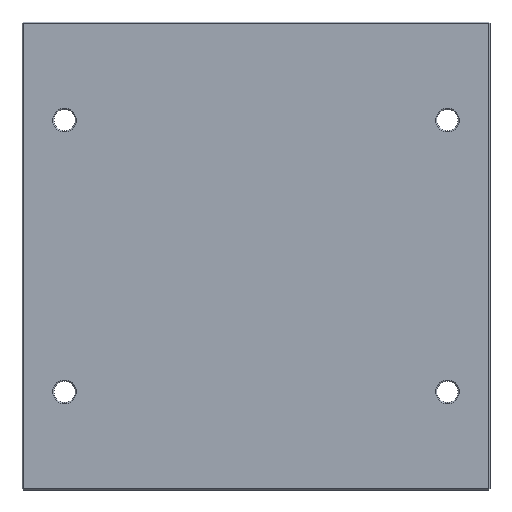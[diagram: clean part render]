
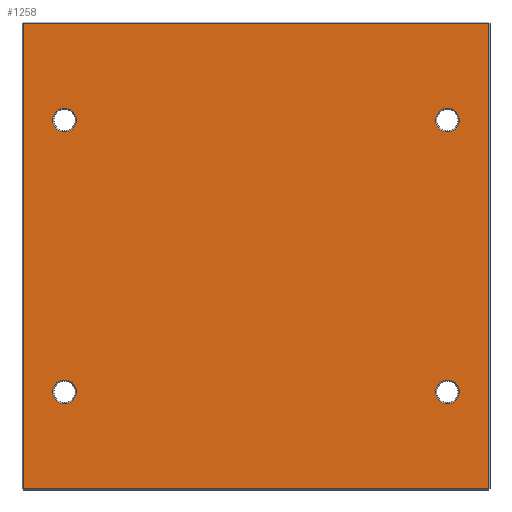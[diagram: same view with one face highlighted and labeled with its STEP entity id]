
A CAD part, front view. The second image highlights one B-rep face of the part: STEP entity #1258.
In plain terms, the highlighted planar face has unit normal (0, -1, 0).
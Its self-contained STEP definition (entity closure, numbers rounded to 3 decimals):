
#7 = EDGE_CURVE ( 'NONE', #974, #1653, #1294, .T. ) ;
#16 = CIRCLE ( 'NONE', #1277, 10. ) ;
#21 = DIRECTION ( 'NONE',  ( 0., 0., 1. ) ) ;
#23 = CARTESIAN_POINT ( 'NONE',  ( 197., 0., 0. ) ) ;
#34 = FACE_BOUND ( 'NONE', #959, .T. ) ;
#89 = VERTEX_POINT ( 'NONE', #746 ) ;
#120 = CARTESIAN_POINT ( 'NONE',  ( -197., 0., -197. ) ) ;
#159 = CIRCLE ( 'NONE', #545, 10. ) ;
#214 = FACE_BOUND ( 'NONE', #855, .T. ) ;
#222 = AXIS2_PLACEMENT_3D ( 'NONE', #1064, #1046, #1035 ) ;
#231 = DIRECTION ( 'NONE',  ( 0., 0., 1. ) ) ;
#238 = DIRECTION ( 'NONE',  ( 0., 1., 0. ) ) ;
#240 = CARTESIAN_POINT ( 'NONE',  ( -162., 0., 105. ) ) ;
#252 = LINE ( 'NONE', #1088, #1494 ) ;
#259 = AXIS2_PLACEMENT_3D ( 'NONE', #1219, #1214, #1208 ) ;
#278 = CARTESIAN_POINT ( 'NONE',  ( 0., 0., 0. ) ) ;
#305 = CIRCLE ( 'NONE', #838, 10. ) ;
#307 = ORIENTED_EDGE ( 'NONE', *, *, #1137, .T. ) ;
#325 = PLANE ( 'NONE',  #1118 ) ;
#328 = DIRECTION ( 'NONE',  ( 0., 0., 1. ) ) ;
#334 = DIRECTION ( 'NONE',  ( 0., 1., 0. ) ) ;
#340 = CARTESIAN_POINT ( 'NONE',  ( 162., 0., -115. ) ) ;
#351 = ORIENTED_EDGE ( 'NONE', *, *, #1306, .T. ) ;
#364 = FACE_BOUND ( 'NONE', #699, .T. ) ;
#396 = DIRECTION ( 'NONE',  ( 0., 0., 1. ) ) ;
#397 = AXIS2_PLACEMENT_3D ( 'NONE', #1586, #1405, #1375 ) ;
#420 = DIRECTION ( 'NONE',  ( 0., 1., 0. ) ) ;
#423 = CARTESIAN_POINT ( 'NONE',  ( -162., 0., -115. ) ) ;
#447 = CARTESIAN_POINT ( 'NONE',  ( 197., 0., 197. ) ) ;
#451 = VERTEX_POINT ( 'NONE', #737 ) ;
#502 = CARTESIAN_POINT ( 'NONE',  ( 162., 0., -125. ) ) ;
#545 = AXIS2_PLACEMENT_3D ( 'NONE', #1419, #1317, #1338 ) ;
#578 = AXIS2_PLACEMENT_3D ( 'NONE', #1268, #1261, #1255 ) ;
#609 = DIRECTION ( 'NONE',  ( 1., 0., 0. ) ) ;
#611 = VERTEX_POINT ( 'NONE', #1211 ) ;
#616 = CARTESIAN_POINT ( 'NONE',  ( 0., 0., -197. ) ) ;
#620 = DIRECTION ( 'NONE',  ( 0., 0., 1. ) ) ;
#637 = CARTESIAN_POINT ( 'NONE',  ( -162., 0., -105. ) ) ;
#652 = CARTESIAN_POINT ( 'NONE',  ( 162., 0., 115. ) ) ;
#667 = ORIENTED_EDGE ( 'NONE', *, *, #1498, .T. ) ;
#682 = VECTOR ( 'NONE', #1439, 1000. ) ;
#689 = DIRECTION ( 'NONE',  ( 0., 1., 0. ) ) ;
#699 = EDGE_LOOP ( 'NONE', ( #1410, #1560 ) ) ;
#722 = CARTESIAN_POINT ( 'NONE',  ( -197., 0., 197. ) ) ;
#737 = CARTESIAN_POINT ( 'NONE',  ( 162., 0., -105. ) ) ;
#745 = CARTESIAN_POINT ( 'NONE',  ( -162., 0., 125. ) ) ;
#746 = CARTESIAN_POINT ( 'NONE',  ( -162., 0., -125. ) ) ;
#748 = EDGE_LOOP ( 'NONE', ( #1123, #1109 ) ) ;
#753 = CIRCLE ( 'NONE', #578, 10. ) ;
#769 = VERTEX_POINT ( 'NONE', #745 ) ;
#787 = VERTEX_POINT ( 'NONE', #722 ) ;
#791 = LINE ( 'NONE', #1429, #682 ) ;
#803 = EDGE_CURVE ( 'NONE', #1328, #89, #1220, .T. ) ;
#819 = CARTESIAN_POINT ( 'NONE',  ( 197., 0., -197. ) ) ;
#826 = VERTEX_POINT ( 'NONE', #447 ) ;
#829 = VERTEX_POINT ( 'NONE', #502 ) ;
#838 = AXIS2_PLACEMENT_3D ( 'NONE', #652, #689, #620 ) ;
#855 = EDGE_LOOP ( 'NONE', ( #1468, #1005 ) ) ;
#878 = AXIS2_PLACEMENT_3D ( 'NONE', #423, #420, #396 ) ;
#892 = VERTEX_POINT ( 'NONE', #240 ) ;
#914 = FACE_BOUND ( 'NONE', #748, .T. ) ;
#959 = EDGE_LOOP ( 'NONE', ( #1086, #1242 ) ) ;
#974 = VERTEX_POINT ( 'NONE', #120 ) ;
#1005 = ORIENTED_EDGE ( 'NONE', *, *, #1443, .T. ) ;
#1035 = DIRECTION ( 'NONE',  ( 0., 0., 1. ) ) ;
#1046 = DIRECTION ( 'NONE',  ( 0., 1., 0. ) ) ;
#1064 = CARTESIAN_POINT ( 'NONE',  ( -162., 0., 115. ) ) ;
#1075 = EDGE_LOOP ( 'NONE', ( #351, #307, #667, #1151 ) ) ;
#1086 = ORIENTED_EDGE ( 'NONE', *, *, #1415, .T. ) ;
#1088 = CARTESIAN_POINT ( 'NONE',  ( -197., 0., 0. ) ) ;
#1093 = CIRCLE ( 'NONE', #259, 10. ) ;
#1109 = ORIENTED_EDGE ( 'NONE', *, *, #1322, .T. ) ;
#1118 = AXIS2_PLACEMENT_3D ( 'NONE', #278, #238, #231 ) ;
#1123 = ORIENTED_EDGE ( 'NONE', *, *, #1525, .T. ) ;
#1125 = LINE ( 'NONE', #23, #1521 ) ;
#1135 = VECTOR ( 'NONE', #609, 1000. ) ;
#1137 = EDGE_CURVE ( 'NONE', #826, #787, #791, .T. ) ;
#1147 = DIRECTION ( 'NONE',  ( 0., 0., -1. ) ) ;
#1151 = ORIENTED_EDGE ( 'NONE', *, *, #7, .T. ) ;
#1208 = DIRECTION ( 'NONE',  ( 0., 0., 1. ) ) ;
#1211 = CARTESIAN_POINT ( 'NONE',  ( 162., 0., 105. ) ) ;
#1214 = DIRECTION ( 'NONE',  ( 0., 1., 0. ) ) ;
#1219 = CARTESIAN_POINT ( 'NONE',  ( -162., 0., -115. ) ) ;
#1220 = CIRCLE ( 'NONE', #878, 10. ) ;
#1237 = EDGE_CURVE ( 'NONE', #829, #451, #16, .T. ) ;
#1242 = ORIENTED_EDGE ( 'NONE', *, *, #1622, .T. ) ;
#1255 = DIRECTION ( 'NONE',  ( 0., 0., 1. ) ) ;
#1258 = ADVANCED_FACE ( 'NONE', ( #214, #914, #34, #364, #1313 ), #325, .F. ) ;
#1261 = DIRECTION ( 'NONE',  ( 0., 1., 0. ) ) ;
#1268 = CARTESIAN_POINT ( 'NONE',  ( 162., 0., -115. ) ) ;
#1277 = AXIS2_PLACEMENT_3D ( 'NONE', #340, #334, #328 ) ;
#1294 = LINE ( 'NONE', #616, #1135 ) ;
#1306 = EDGE_CURVE ( 'NONE', #1653, #826, #1125, .T. ) ;
#1313 = FACE_OUTER_BOUND ( 'NONE', #1075, .T. ) ;
#1317 = DIRECTION ( 'NONE',  ( 0., 1., 0. ) ) ;
#1322 = EDGE_CURVE ( 'NONE', #1552, #611, #305, .T. ) ;
#1328 = VERTEX_POINT ( 'NONE', #637 ) ;
#1338 = DIRECTION ( 'NONE',  ( 0., 0., 1. ) ) ;
#1375 = DIRECTION ( 'NONE',  ( 0., 0., 1. ) ) ;
#1405 = DIRECTION ( 'NONE',  ( 0., 1., 0. ) ) ;
#1410 = ORIENTED_EDGE ( 'NONE', *, *, #1460, .T. ) ;
#1415 = EDGE_CURVE ( 'NONE', #892, #769, #159, .T. ) ;
#1419 = CARTESIAN_POINT ( 'NONE',  ( -162., 0., 115. ) ) ;
#1429 = CARTESIAN_POINT ( 'NONE',  ( 0., 0., 197. ) ) ;
#1439 = DIRECTION ( 'NONE',  ( -1., 0., 0. ) ) ;
#1443 = EDGE_CURVE ( 'NONE', #451, #829, #753, .T. ) ;
#1460 = EDGE_CURVE ( 'NONE', #89, #1328, #1093, .T. ) ;
#1461 = CIRCLE ( 'NONE', #397, 10. ) ;
#1468 = ORIENTED_EDGE ( 'NONE', *, *, #1237, .T. ) ;
#1472 = CARTESIAN_POINT ( 'NONE',  ( 162., 0., 125. ) ) ;
#1494 = VECTOR ( 'NONE', #1147, 1000. ) ;
#1498 = EDGE_CURVE ( 'NONE', #787, #974, #252, .T. ) ;
#1499 = CIRCLE ( 'NONE', #222, 10. ) ;
#1521 = VECTOR ( 'NONE', #21, 1000. ) ;
#1525 = EDGE_CURVE ( 'NONE', #611, #1552, #1461, .T. ) ;
#1552 = VERTEX_POINT ( 'NONE', #1472 ) ;
#1560 = ORIENTED_EDGE ( 'NONE', *, *, #803, .T. ) ;
#1586 = CARTESIAN_POINT ( 'NONE',  ( 162., 0., 115. ) ) ;
#1622 = EDGE_CURVE ( 'NONE', #769, #892, #1499, .T. ) ;
#1653 = VERTEX_POINT ( 'NONE', #819 ) ;
